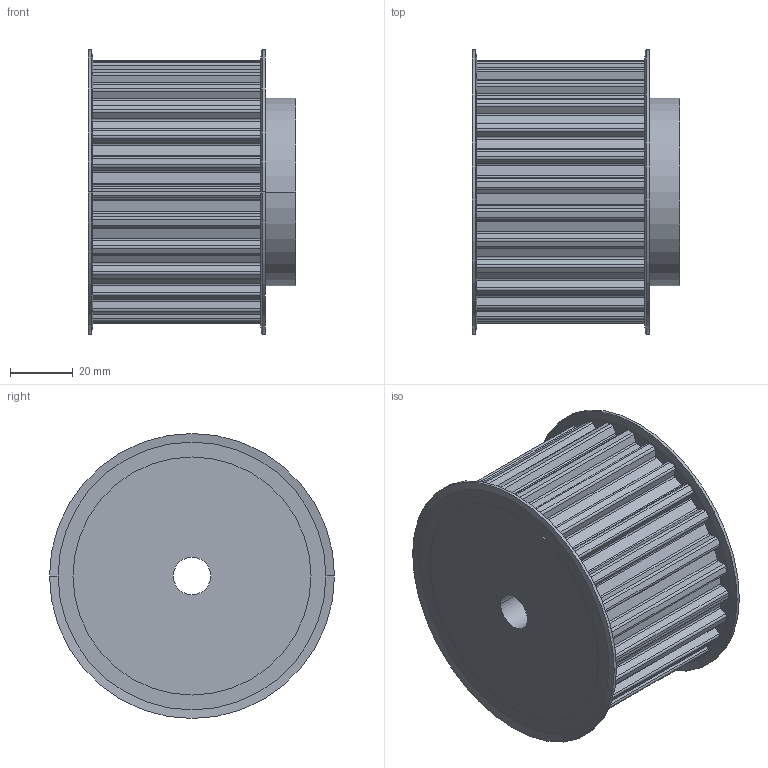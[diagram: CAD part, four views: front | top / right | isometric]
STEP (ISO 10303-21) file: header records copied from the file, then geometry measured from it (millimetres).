
FILE_DESCRIPTION( ( '' ), '1' );
FILE_NAME( 'C:/Users/Stangenbergd/Documents/CAD_Step/1/16452700.stp', '2021-10-19T09:01:30', ( '' ), ( '' ), ' ', ' ', ' ' );
FILE_SCHEMA( ( 'CONFIG_CONTROL_DESIGN' ) );
Length unit declared in the file: millimetre
Products named in the file (1): 1
Bounding box: 66.24 x 91 x 91 mm (x, y, z)
Volume: 306890.2 mm3; surface area: 40701.6 mm2
Topology: 1 solids, 1 shells, 244 faces, 703 edges, 466 vertices
Faces by surface type: cylinder 148, plane 88, cone 8
Entity records: 8175 total; most frequent: DIRECTION 1497, CARTESIAN_POINT 1414, ORIENTED_EDGE 1406, EDGE_CURVE 703, AXIS2_PLACEMENT_3D 549, VERTEX_POINT 466, LINE 399, VECTOR 399
